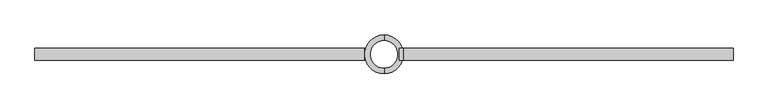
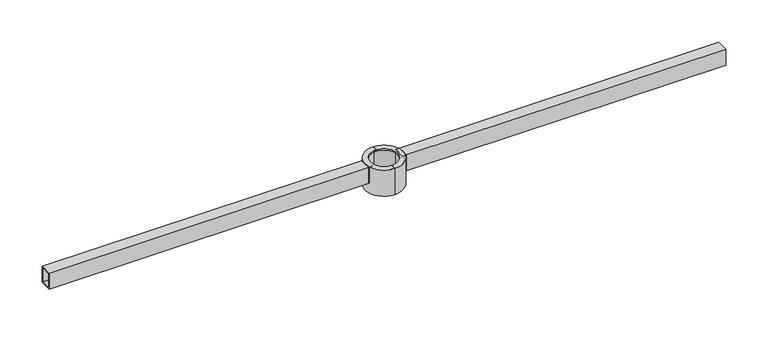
"""IFC4 building model written with IfcOpenShell, lengths in millimetres: light fixture geometry, CANDELA_CLF : 2XCLF05."""

from ifc_helpers import new_model, si_unit, frame, origin, origin_with_axes, place, context, project, spatial, polyline, circle_curve, outline, extrude, source, transform, mapped, element, save
from ifc_brep_helpers import plane_surface, cylinder_surface, revolved_surface, advanced_brep


def light_fixture_89e1cdf7(model_context):
    return source(origin(), model_context, "Body", "SolidModel", [
        advanced_brep(
        [(0.0, -88.3, -50.0), (0.0, -63.5, -50.0), (0.0, -63.5, -44.0), (0.0, -82.3, -44.0), (0.0, -82.3, 74.0), (0.0, -63.5, 74.0), (0.0, -63.5, 80.0), (0.0, -88.3, 80.0), (0.0, 88.3, -50.0), (0.0, 88.3, 80.0), (0.0, 63.5, 80.0), (0.0, 63.5, 74.0), (0.0, 82.3, 74.0), (0.0, 82.3, -44.0), (0.0, 63.5, -44.0), (0.0, 63.5, -50.0)],
        [
            (0, 1),
            (1, 2),
            (2, 3),
            (3, 4),
            (4, 5),
            (5, 6),
            (6, 7),
            (7, 0),
            (8, 9),
            (9, 10),
            (10, 11),
            (11, 12),
            (12, 13),
            (13, 14),
            (14, 15),
            (15, 8),
            (15, 1, circle_curve(frame((0.0, 0.0, -50.0), z_axis=(0.0, 0.0, 1.0), x_axis=(0.0, -1.0, 0.0)), 63.5)),
            (0, 8, circle_curve(frame((0.0, 0.0, -50.0), z_axis=(0.0, 0.0, -1.0), x_axis=(0.0, -1.0, 0.0)), 88.3)),
            (14, 2, circle_curve(frame((0.0, 0.0, -44.0), z_axis=(0.0, 0.0, 1.0), x_axis=(0.0, -1.0, 0.0)), 63.5)),
            (13, 3, circle_curve(frame((0.0, 0.0, -44.0), z_axis=(0.0, 0.0, 1.0), x_axis=(0.0, -1.0, 0.0)), 82.3)),
            (12, 4, circle_curve(frame((0.0, 0.0, 74.0), z_axis=(0.0, 0.0, 1.0), x_axis=(0.0, -1.0, 0.0)), 82.3)),
            (11, 5, circle_curve(frame((0.0, 0.0, 74.0), z_axis=(0.0, 0.0, 1.0), x_axis=(0.0, -1.0, 0.0)), 63.5)),
            (10, 6, circle_curve(frame((0.0, 0.0, 80.0), z_axis=(0.0, 0.0, 1.0), x_axis=(0.0, -1.0, 0.0)), 63.5)),
            (9, 7, circle_curve(frame((0.0, 0.0, 80.0), z_axis=(0.0, 0.0, 1.0), x_axis=(0.0, -1.0, 0.0)), 88.3)),
        ],
        [
            plane_surface(frame((0.0, 0.0, -520.9920377), z_axis=(1.0, 0.0, 0.0), x_axis=(0.0, -1.0, 0.0))),
            plane_surface(frame((0.0, 0.0, -520.9920377), z_axis=(1.0, 0.0, 0.0), x_axis=(0.0, 1.0, 0.0))),
            plane_surface(frame((0.0, 0.0, -50.0), z_axis=(0.0, 0.0, -1.0), x_axis=(0.0, -1.0, 0.0))),
            revolved_surface(polyline([(0.0, -63.5, -50.0), (0.0, -63.5, -44.0)]), (0.0, 0.0, -520.9920377), (0.0, 0.0, -1.0)),
            plane_surface(frame((0.0, 0.0, -44.0), z_axis=(0.0, 0.0, 1.0), x_axis=(0.0, -1.0, 0.0))),
            revolved_surface(polyline([(0.0, -82.3, -44.0), (0.0, -82.3, 74.0)]), (0.0, 0.0, -520.9920377), (0.0, 0.0, -1.0)),
            plane_surface(frame((0.0, 0.0, 74.0), z_axis=(0.0, 0.0, -1.0), x_axis=(0.0, -1.0, 0.0))),
            revolved_surface(polyline([(0.0, -63.5, 74.0), (0.0, -63.5, 80.0)]), (0.0, 0.0, -520.9920377), (0.0, 0.0, -1.0)),
            plane_surface(frame((0.0, 0.0, 80.0), z_axis=(0.0, 0.0, 1.0), x_axis=(0.0, -1.0, 0.0))),
            cylinder_surface(frame((0.0, 0.0, -520.9920377), z_axis=(0.0, 0.0, -1.0), x_axis=(0.0, -1.0, 0.0)), 88.3),
        ],
        [
            (0, [[1, 2, 3, 4, 5, 6, 7, 8]]),
            (1, [[9, 10, 11, 12, 13, 14, 15, 16]]),
            (2, [[17, -1, 18, -16]]),
            (3, [[19, -2, -17, -15]]),
            (4, [[20, -3, -19, -14]]),
            (5, [[21, -4, -20, -13]]),
            (6, [[22, -5, -21, -12]]),
            (7, [[23, -6, -22, -11]]),
            (8, [[24, -7, -23, -10]]),
            (9, [[-18, -8, -24, -9]]),
        ],
    ),
        extrude(outline(polyline([(-88.3, -27.5), (-88.3, 27.5), (-69.9764576, 27.5), (-69.9764576, -27.5), (-88.3, -27.5)])), origin_with_axes(), (0.0, 0.0, 1.0), 80.0),
        extrude(outline(polyline([(27.5, 0.0), (-27.5, 0.0), (-27.5, 80.0), (27.5, 80.0), (27.5, 0.0)]), holes=[polyline([(-21.5, 6.0), (21.5, 6.0), (21.5, 74.0), (-21.5, 74.0), (-21.5, 6.0)])]), frame((-1588.3, 0.0, 0.0), z_axis=(1.0, 0.0, 0.0), x_axis=(0.0, 1.0, 0.0)), (0.0, 0.0, 1.0), 1500.0),
        advanced_brep(
        [(0.0, -88.3, -50.0), (0.0, -63.5, -50.0), (0.0, -63.5, -44.0), (0.0, -82.3, -44.0), (0.0, -82.3, 74.0), (0.0, -63.5, 74.0), (0.0, -63.5, 80.0), (0.0, -88.3, 80.0), (0.0, 88.3, -50.0), (0.0, 88.3, 80.0), (0.0, 63.5, 80.0), (0.0, 63.5, 74.0), (0.0, 82.3, 74.0), (0.0, 82.3, -44.0), (0.0, 63.5, -44.0), (0.0, 63.5, -50.0)],
        [
            (0, 1),
            (1, 2),
            (2, 3),
            (3, 4),
            (4, 5),
            (5, 6),
            (6, 7),
            (7, 0),
            (8, 9),
            (9, 10),
            (10, 11),
            (11, 12),
            (12, 13),
            (13, 14),
            (14, 15),
            (15, 8),
            (15, 1, circle_curve(frame((0.0, 0.0, -50.0), z_axis=(0.0, 0.0, 1.0), x_axis=(0.0, -1.0, 0.0)), 63.5)),
            (0, 8, circle_curve(frame((0.0, 0.0, -50.0), z_axis=(0.0, 0.0, -1.0), x_axis=(0.0, -1.0, 0.0)), 88.3)),
            (14, 2, circle_curve(frame((0.0, 0.0, -44.0), z_axis=(0.0, 0.0, 1.0), x_axis=(0.0, -1.0, 0.0)), 63.5)),
            (13, 3, circle_curve(frame((0.0, 0.0, -44.0), z_axis=(0.0, 0.0, 1.0), x_axis=(0.0, -1.0, 0.0)), 82.3)),
            (12, 4, circle_curve(frame((0.0, 0.0, 74.0), z_axis=(0.0, 0.0, 1.0), x_axis=(0.0, -1.0, 0.0)), 82.3)),
            (11, 5, circle_curve(frame((0.0, 0.0, 74.0), z_axis=(0.0, 0.0, 1.0), x_axis=(0.0, -1.0, 0.0)), 63.5)),
            (10, 6, circle_curve(frame((0.0, 0.0, 80.0), z_axis=(0.0, 0.0, 1.0), x_axis=(0.0, -1.0, 0.0)), 63.5)),
            (9, 7, circle_curve(frame((0.0, 0.0, 80.0), z_axis=(0.0, 0.0, 1.0), x_axis=(0.0, -1.0, 0.0)), 88.3)),
        ],
        [
            plane_surface(frame((0.0, 0.0, -520.9920377), z_axis=(1.0, 0.0, 0.0), x_axis=(0.0, -1.0, 0.0))),
            plane_surface(frame((0.0, 0.0, -520.9920377), z_axis=(1.0, 0.0, 0.0), x_axis=(0.0, 1.0, 0.0))),
            plane_surface(frame((0.0, 0.0, -50.0), z_axis=(0.0, 0.0, -1.0), x_axis=(0.0, -1.0, 0.0))),
            revolved_surface(polyline([(0.0, -63.5, -50.0), (0.0, -63.5, -44.0)]), (0.0, 0.0, -520.9920377), (0.0, 0.0, -1.0)),
            plane_surface(frame((0.0, 0.0, -44.0), z_axis=(0.0, 0.0, 1.0), x_axis=(0.0, -1.0, 0.0))),
            revolved_surface(polyline([(0.0, -82.3, -44.0), (0.0, -82.3, 74.0)]), (0.0, 0.0, -520.9920377), (0.0, 0.0, -1.0)),
            plane_surface(frame((0.0, 0.0, 74.0), z_axis=(0.0, 0.0, -1.0), x_axis=(0.0, -1.0, 0.0))),
            revolved_surface(polyline([(0.0, -63.5, 74.0), (0.0, -63.5, 80.0)]), (0.0, 0.0, -520.9920377), (0.0, 0.0, -1.0)),
            plane_surface(frame((0.0, 0.0, 80.0), z_axis=(0.0, 0.0, 1.0), x_axis=(0.0, -1.0, 0.0))),
            cylinder_surface(frame((0.0, 0.0, -520.9920377), z_axis=(0.0, 0.0, -1.0), x_axis=(0.0, -1.0, 0.0)), 88.3),
        ],
        [
            (0, [[1, 2, 3, 4, 5, 6, 7, 8]]),
            (1, [[9, 10, 11, 12, 13, 14, 15, 16]]),
            (2, [[17, -1, 18, -16]]),
            (3, [[19, -2, -17, -15]]),
            (4, [[20, -3, -19, -14]]),
            (5, [[21, -4, -20, -13]]),
            (6, [[22, -5, -21, -12]]),
            (7, [[23, -6, -22, -11]]),
            (8, [[24, -7, -23, -10]]),
            (9, [[-18, -8, -24, -9]]),
        ],
    ),
        extrude(outline(polyline([(88.3, 27.5), (88.3, -27.5), (69.9764576, -27.5), (69.9764576, 27.5), (88.3, 27.5)])), origin_with_axes(), (0.0, 0.0, 1.0), 80.0),
        advanced_brep(
        [(0.0, -88.3, -50.0), (0.0, -88.3, 80.0), (0.0, -63.5, 80.0), (0.0, -63.5, 74.0), (0.0, -82.3, 74.0), (0.0, -82.3, -44.0), (0.0, -63.5, -44.0), (0.0, -63.5, -50.0), (0.0, 88.3, -50.0), (0.0, 63.5, -50.0), (0.0, 63.5, -44.0), (0.0, 82.3, -44.0), (0.0, 82.3, 74.0), (0.0, 63.5, 74.0), (0.0, 63.5, 80.0), (0.0, 88.3, 80.0)],
        [
            (0, 1),
            (1, 2),
            (2, 3),
            (3, 4),
            (4, 5),
            (5, 6),
            (6, 7),
            (7, 0),
            (8, 9),
            (9, 10),
            (10, 11),
            (11, 12),
            (12, 13),
            (13, 14),
            (14, 15),
            (15, 8),
            (8, 0, circle_curve(frame((0.0, 0.0, -50.0), z_axis=(0.0, 0.0, -1.0), x_axis=(0.0, -1.0, 0.0)), 88.3)),
            (7, 9, circle_curve(frame((0.0, 0.0, -50.0), z_axis=(0.0, 0.0, 1.0), x_axis=(0.0, -1.0, 0.0)), 63.5)),
            (6, 10, circle_curve(frame((0.0, 0.0, -44.0), z_axis=(0.0, 0.0, 1.0), x_axis=(0.0, -1.0, 0.0)), 63.5)),
            (5, 11, circle_curve(frame((0.0, 0.0, -44.0), z_axis=(0.0, 0.0, 1.0), x_axis=(0.0, -1.0, 0.0)), 82.3)),
            (4, 12, circle_curve(frame((0.0, 0.0, 74.0), z_axis=(0.0, 0.0, 1.0), x_axis=(0.0, -1.0, 0.0)), 82.3)),
            (3, 13, circle_curve(frame((0.0, 0.0, 74.0), z_axis=(0.0, 0.0, 1.0), x_axis=(0.0, -1.0, 0.0)), 63.5)),
            (2, 14, circle_curve(frame((0.0, 0.0, 80.0), z_axis=(0.0, 0.0, 1.0), x_axis=(0.0, -1.0, 0.0)), 63.5)),
            (1, 15, circle_curve(frame((0.0, 0.0, 80.0), z_axis=(0.0, 0.0, 1.0), x_axis=(0.0, -1.0, 0.0)), 88.3)),
        ],
        [
            plane_surface(frame((0.0, 0.0, -520.9920377), z_axis=(-1.0, 0.0, 0.0), x_axis=(0.0, -1.0, 0.0))),
            plane_surface(frame((0.0, 0.0, -520.9920377), z_axis=(-1.0, 0.0, 0.0), x_axis=(0.0, 1.0, 0.0))),
            plane_surface(frame((0.0, 0.0, -50.0), z_axis=(0.0, 0.0, -1.0), x_axis=(0.0, -1.0, 0.0))),
            revolved_surface(polyline([(0.0, -63.5, -44.0), (0.0, -63.5, -50.0)]), (0.0, 0.0, -520.9920377), (0.0, 0.0, 1.0)),
            plane_surface(frame((0.0, 0.0, -44.0), z_axis=(0.0, 0.0, 1.0), x_axis=(0.0, -1.0, 0.0))),
            revolved_surface(polyline([(0.0, -82.3, 74.0), (0.0, -82.3, -44.0)]), (0.0, 0.0, -520.9920377), (0.0, 0.0, 1.0)),
            plane_surface(frame((0.0, 0.0, 74.0), z_axis=(0.0, 0.0, -1.0), x_axis=(0.0, -1.0, 0.0))),
            revolved_surface(polyline([(0.0, -63.5, 80.0), (0.0, -63.5, 74.0)]), (0.0, 0.0, -520.9920377), (0.0, 0.0, 1.0)),
            plane_surface(frame((0.0, 0.0, 80.0), z_axis=(0.0, 0.0, 1.0), x_axis=(0.0, -1.0, 0.0))),
            cylinder_surface(frame((0.0, 0.0, -520.9920377), z_axis=(0.0, 0.0, 1.0), x_axis=(0.0, -1.0, 0.0)), 88.3),
        ],
        [
            (0, [[1, 2, 3, 4, 5, 6, 7, 8]]),
            (1, [[9, 10, 11, 12, 13, 14, 15, 16]]),
            (2, [[17, -8, 18, -9]]),
            (3, [[-18, -7, 19, -10]]),
            (4, [[-19, -6, 20, -11]]),
            (5, [[-20, -5, 21, -12]]),
            (6, [[-21, -4, 22, -13]]),
            (7, [[-22, -3, 23, -14]]),
            (8, [[-23, -2, 24, -15]]),
            (9, [[-24, -1, -17, -16]]),
        ],
    ),
        extrude(outline(polyline([(27.5, 0.0), (-27.5, 0.0), (-27.5, 80.0), (27.5, 80.0), (27.5, 0.0)]), holes=[polyline([(-21.5, 6.0), (21.5, 6.0), (21.5, 74.0), (-21.5, 74.0), (-21.5, 6.0)])]), frame((88.3, 0.0, 0.0), z_axis=(1.0, 0.0, 0.0), x_axis=(0.0, 1.0, 0.0)), (0.0, 0.0, 1.0), 1500.0),
    ])


if __name__ == "__main__":
    model = new_model("IFC4")
    model_context = context("Model", 3, world=origin())
    ifc_project = project(units=[si_unit("LENGTHUNIT", "METRE", prefix="MILLI")], contexts=[model_context])
    site = spatial("IfcSite", under=ifc_project)
    building = spatial("IfcBuilding", under=site)
    placement = place(None, origin())
    light_fixture_shape = light_fixture_89e1cdf7(model_context)
    element("IfcLightFixture", 1, ObjectType="CANDELA_CLF : 2XCLF05", at=placement, inside=building, context=model_context, shape_type="MappedRepresentation", body=[
        mapped(light_fixture_shape, transform((0.0, 0.0, 0.0), x_axis=(1.0, 0.0, 0.0), y_axis=(0.0, 1.0, 0.0), z_axis=(0.0, 0.0, 1.0))),
    ])
    save(model, "model.ifc")
